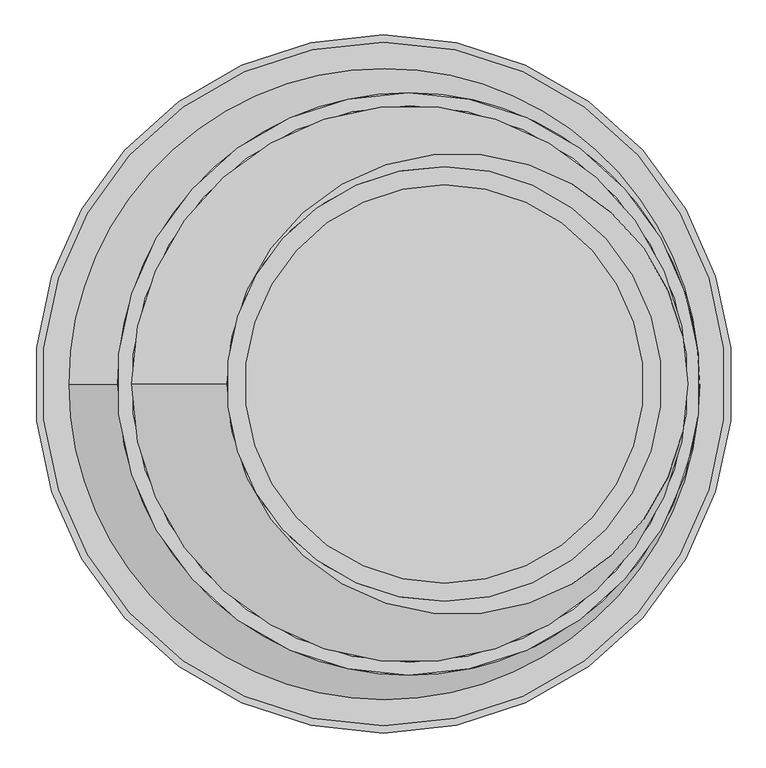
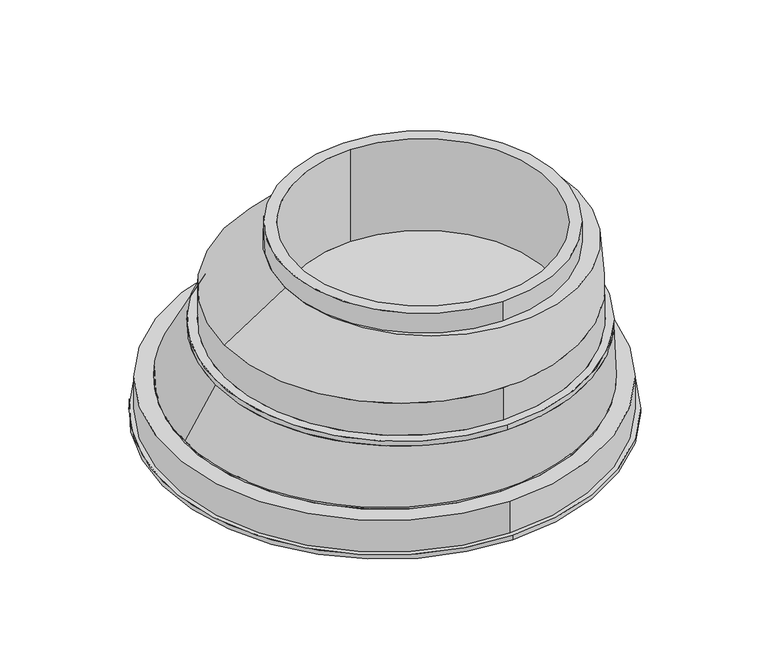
"""IFC4 building model written with IfcOpenShell, lengths in millimetres: valve geometry, Pipelife - Studnia PRO - Nasada redukcyjna z ząbkami do teleskopu 1000 : 1000/630 z ząbkami do teleskopu."""

from ifc_helpers import new_model, si_unit, frame, origin, place, context, project, spatial, polyline, circle_curve, source, transform, mapped, element, save
from ifc_brep_helpers import plane_surface, cylinder_surface, revolved_surface, spline_surface, advanced_brep


def valve_4ef3ddab(model_context):
    return source(origin(), model_context, "Body", "AdvancedBrep", [
        advanced_brep(
        [(485.0, 0.0, 420.0), (-250.0, 0.0, 420.0), (96.5, 346.5, 420.0), (96.5, -346.5, 420.0), (485.0, 0.0, 320.0), (41.5, 443.5, 320.0), (-402.0, 0.0, 320.0), (41.5, -443.5, 320.0), (96.5, 317.5, 228.0), (96.5, -317.5, 228.0), (96.5, 317.5, 472.0), (96.5, -317.5, 472.0), (0.0, 556.5, 11.0), (0.0, -556.5, 11.0), (0.0, -545.0, 11.0), (0.0, 545.0, 11.0), (0.0, 556.5, 0.0), (0.0, -556.5, 0.0), (0.0, 535.0, 0.0), (0.0, -535.0, 0.0), (0.0, 545.0, 95.0), (0.0, -545.0, 95.0), (1.0, -503.0, 95.0), (1.0, 503.0, 95.0), (0.0, 535.0, 90.0), (0.0, -535.0, 90.0), (96.5, 346.5, 472.0), (96.5, -346.5, 472.0), (1.0, 503.0, 100.0), (1.0, -503.0, 100.0), (-502.0, 0.0, 100.0), (504.0, 0.0, 100.0), (-425.0, 0.0, 222.0), (39.5, 464.5, 222.0), (504.0, 0.0, 222.0), (39.5, -464.5, 222.0), (41.5, 443.5, 235.0), (41.5, -443.5, 235.0), (39.5, 464.5, 235.0), (39.5, -464.5, 235.0)],
        [
            (0, 1, circle_curve(frame((117.5, 0.0, 420.0), z_axis=(0.0, 0.0, 1.0), x_axis=(-1.0, 0.0, 0.0)), 367.5)),
            (1, 2, circle_curve(frame((96.5, 0.0, 420.0), z_axis=(0.0, 0.0, -1.0), x_axis=(0.0, -1.0, 0.0)), 346.5)),
            (2, 3, circle_curve(frame((96.5, 0.0, 420.0), z_axis=(0.0, 0.0, -1.0), x_axis=(0.0, -1.0, 0.0)), 346.5)),
            (3, 1, circle_curve(frame((96.5, 0.0, 420.0), z_axis=(0.0, 0.0, -1.0), x_axis=(0.0, -1.0, 0.0)), 346.5)),
            (1, 0, circle_curve(frame((117.5, 0.0, 420.0), z_axis=(0.0, 0.0, 1.0), x_axis=(-1.0, 0.0, 0.0)), 367.5)),
            (0, 4),
            (4, 5, circle_curve(frame((41.5, 0.0, 320.0), z_axis=(0.0, 0.0, 1.0), x_axis=(0.0, -1.0, 0.0)), 443.5)),
            (5, 6, circle_curve(frame((41.5, 0.0, 320.0), z_axis=(0.0, 0.0, 1.0), x_axis=(0.0, -1.0, 0.0)), 443.5)),
            (6, 1),
            (6, 7, circle_curve(frame((41.5, 0.0, 320.0), z_axis=(0.0, 0.0, 1.0), x_axis=(0.0, -1.0, 0.0)), 443.5)),
            (7, 4, circle_curve(frame((41.5, 0.0, 320.0), z_axis=(0.0, 0.0, 1.0), x_axis=(0.0, -1.0, 0.0)), 443.5)),
            (8, 9, circle_curve(frame((96.5, 0.0, 228.0), z_axis=(0.0, 0.0, 1.0), x_axis=(0.0, -1.0, 0.0)), 317.5)),
            (9, 8, circle_curve(frame((96.5, 0.0, 228.0), z_axis=(0.0, 0.0, 1.0), x_axis=(0.0, -1.0, 0.0)), 317.5)),
            (8, 10),
            (10, 11, circle_curve(frame((96.5, 0.0, 472.0), z_axis=(0.0, 0.0, 1.0), x_axis=(0.0, -1.0, 0.0)), 317.5)),
            (11, 9),
            (11, 10, circle_curve(frame((96.5, 0.0, 472.0), z_axis=(0.0, 0.0, 1.0), x_axis=(0.0, -1.0, 0.0)), 317.5)),
            (12, 13, circle_curve(frame((0.0, 0.0, 11.0), z_axis=(0.0, 0.0, 1.0), x_axis=(0.0, -1.0, 0.0)), 556.5)),
            (13, 12, circle_curve(frame((0.0, 0.0, 11.0), z_axis=(0.0, 0.0, 1.0), x_axis=(0.0, -1.0, 0.0)), 556.5)),
            (14, 15, circle_curve(frame((0.0, 0.0, 11.0), z_axis=(0.0, 0.0, -1.0), x_axis=(0.0, -1.0, 0.0)), 545.0)),
            (15, 14, circle_curve(frame((0.0, 0.0, 11.0), z_axis=(0.0, 0.0, -1.0), x_axis=(0.0, -1.0, 0.0)), 545.0)),
            (16, 17, circle_curve(frame((0.0, 0.0, 0.0), z_axis=(0.0, 0.0, -1.0), x_axis=(0.0, -1.0, 0.0)), 556.5)),
            (17, 16, circle_curve(frame((0.0, 0.0, 0.0), z_axis=(0.0, 0.0, -1.0), x_axis=(0.0, -1.0, 0.0)), 556.5)),
            (18, 19, circle_curve(frame((0.0, 0.0, 0.0), z_axis=(0.0, 0.0, 1.0), x_axis=(0.0, -1.0, 0.0)), 535.0)),
            (19, 18, circle_curve(frame((0.0, 0.0, 0.0), z_axis=(0.0, 0.0, 1.0), x_axis=(0.0, -1.0, 0.0)), 535.0)),
            (12, 16),
            (17, 13),
            (20, 21, circle_curve(frame((0.0, 0.0, 95.0), z_axis=(0.0, 0.0, 1.0), x_axis=(0.0, -1.0, 0.0)), 545.0)),
            (21, 20, circle_curve(frame((0.0, 0.0, 95.0), z_axis=(0.0, 0.0, 1.0), x_axis=(0.0, -1.0, 0.0)), 545.0)),
            (22, 23, circle_curve(frame((1.0, 0.0, 95.0), z_axis=(0.0, 0.0, -1.0), x_axis=(0.0, -1.0, 0.0)), 503.0)),
            (23, 22, circle_curve(frame((1.0, 0.0, 95.0), z_axis=(0.0, 0.0, -1.0), x_axis=(0.0, -1.0, 0.0)), 503.0)),
            (20, 15),
            (14, 21),
            (24, 25, circle_curve(frame((0.0, 0.0, 90.0), z_axis=(0.0, 0.0, -1.0), x_axis=(0.0, -1.0, 0.0)), 535.0)),
            (25, 24, circle_curve(frame((0.0, 0.0, 90.0), z_axis=(0.0, 0.0, -1.0), x_axis=(0.0, -1.0, 0.0)), 535.0)),
            (25, 19),
            (18, 24),
            (26, 27, circle_curve(frame((96.5, 0.0, 472.0), z_axis=(0.0, 0.0, 1.0), x_axis=(0.0, -1.0, 0.0)), 346.5)),
            (27, 26, circle_curve(frame((96.5, 0.0, 472.0), z_axis=(0.0, 0.0, 1.0), x_axis=(0.0, -1.0, 0.0)), 346.5)),
            (26, 2),
            (3, 27),
            (28, 23),
            (22, 29),
            (29, 30, circle_curve(frame((1.0, 0.0, 100.0), z_axis=(0.0, 0.0, -1.0), x_axis=(0.0, -1.0, 0.0)), 503.0)),
            (30, 28, circle_curve(frame((1.0, 0.0, 100.0), z_axis=(0.0, 0.0, -1.0), x_axis=(0.0, -1.0, 0.0)), 503.0)),
            (28, 31, circle_curve(frame((1.0, 0.0, 100.0), z_axis=(0.0, 0.0, -1.0), x_axis=(0.0, -1.0, 0.0)), 503.0)),
            (31, 29, circle_curve(frame((1.0, 0.0, 100.0), z_axis=(0.0, 0.0, -1.0), x_axis=(0.0, -1.0, 0.0)), 503.0)),
            (30, 32),
            (32, 33, circle_curve(frame((39.5, 0.0, 222.0), z_axis=(0.0, 0.0, -1.0), x_axis=(0.0, -1.0, 0.0)), 464.5)),
            (33, 34, circle_curve(frame((39.5, 0.0, 222.0), z_axis=(0.0, 0.0, -1.0), x_axis=(0.0, -1.0, 0.0)), 464.5)),
            (34, 31),
            (34, 35, circle_curve(frame((39.5, 0.0, 222.0), z_axis=(0.0, 0.0, -1.0), x_axis=(0.0, -1.0, 0.0)), 464.5)),
            (35, 32, circle_curve(frame((39.5, 0.0, 222.0), z_axis=(0.0, 0.0, -1.0), x_axis=(0.0, -1.0, 0.0)), 464.5)),
            (5, 36),
            (36, 37, circle_curve(frame((41.5, 0.0, 235.0), z_axis=(0.0, 0.0, 1.0), x_axis=(0.0, -1.0, 0.0)), 443.5)),
            (37, 7),
            (37, 36, circle_curve(frame((41.5, 0.0, 235.0), z_axis=(0.0, 0.0, 1.0), x_axis=(0.0, -1.0, 0.0)), 443.5)),
            (38, 39, circle_curve(frame((39.5, 0.0, 235.0), z_axis=(0.0, 0.0, 1.0), x_axis=(0.0, -1.0, 0.0)), 464.5)),
            (39, 38, circle_curve(frame((39.5, 0.0, 235.0), z_axis=(0.0, 0.0, 1.0), x_axis=(0.0, -1.0, 0.0)), 464.5)),
            (38, 33),
            (35, 39),
        ],
        [
            plane_surface(frame((117.5, 0.0, 420.0), z_axis=(0.0, 0.0, 1.0), x_axis=(0.0, 1.0, 0.0))),
            spline_surface(2, 1, [[(485.0, 0.0, 320.0), (485.0, 0.0, 420.0)], [(485.0, 443.5, 320.0), (485.0, 367.5, 420.0)], [(41.5, 443.5, 320.0), (117.5, 367.5, 420.0)], [(-402.0, 443.5, 320.0), (-250.0, 367.5, 420.0)], [(-402.0, 0.0, 320.0), (-250.0, 0.0, 420.0)]], [3, 2, 3], [2, 2], [0.0, 1.0, 2.0], [0.0, 1.0], weights=[[1.0, 1.0], [0.7071067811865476, 0.7071067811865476], [1.0, 1.0], [0.7071067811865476, 0.7071067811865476], [1.0, 1.0]]),
            spline_surface(2, 1, [[(-402.0, 0.0, 320.0), (-250.0, 0.0, 420.0)], [(-402.0, -443.5, 320.0), (-250.0, -367.5, 420.0)], [(41.5, -443.5, 320.0), (117.5, -367.5, 420.0)], [(485.0, -443.5, 320.0), (485.0, -367.5, 420.0)], [(485.0, 0.0, 320.0), (485.0, 0.0, 420.0)]], [3, 2, 3], [2, 2], [0.0, 1.0, 2.0], [0.0, 1.0], weights=[[1.0, 1.0], [0.7071067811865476, 0.7071067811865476], [1.0, 1.0], [0.7071067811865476, 0.7071067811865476], [1.0, 1.0]]),
            plane_surface(frame((96.5, 0.0, 228.0), z_axis=(0.0, 0.0, 1.0), x_axis=(0.0, -1.0, 0.0))),
            revolved_surface(polyline([(96.5, -317.5, 472.0), (96.5, -317.5, 228.0)]), (96.5, 0.0, 472.0), (0.0, 0.0, 1.0)),
            plane_surface(frame((0.0, 0.0, 11.0), z_axis=(0.0, 0.0, 1.0), x_axis=(0.0, -1.0, 0.0))),
            plane_surface(frame((0.0, 0.0, 0.0), z_axis=(0.0, 0.0, -1.0), x_axis=(0.0, -1.0, 0.0))),
            cylinder_surface(frame((0.0, 0.0, 11.0), z_axis=(0.0, 0.0, 1.0), x_axis=(0.0, -1.0, 0.0)), 556.5),
            plane_surface(frame((0.0, 0.0, 95.0), z_axis=(0.0, 0.0, 1.0), x_axis=(0.0, -1.0, 0.0))),
            cylinder_surface(frame((0.0, 0.0, 95.0), z_axis=(0.0, 0.0, 1.0), x_axis=(0.0, -1.0, 0.0)), 545.0),
            plane_surface(frame((0.0, 0.0, 90.0), z_axis=(0.0, 0.0, -1.0), x_axis=(0.0, -1.0, 0.0))),
            revolved_surface(polyline([(0.0, -535.0, 90.0), (0.0, -535.0, 0.0)]), (0.0, 0.0, 90.0), (0.0, 0.0, 1.0)),
            plane_surface(frame((96.5, 0.0, 472.0), z_axis=(0.0, 0.0, 1.0), x_axis=(0.0, -1.0, 0.0))),
            cylinder_surface(frame((96.5, 0.0, 472.0), z_axis=(0.0, 0.0, 1.0), x_axis=(0.0, -1.0, 0.0)), 346.5),
            cylinder_surface(frame((1.0, 0.0, 100.0), z_axis=(0.0, 0.0, 1.0), x_axis=(0.0, -1.0, 0.0)), 503.0),
            spline_surface(2, 1, [[(504.0, 0.0, 100.0), (504.0, 0.0, 222.0)], [(504.0, 503.0, 100.0), (504.0, 464.5, 222.0)], [(1.0, 503.0, 100.0), (39.5, 464.5, 222.0)], [(-502.0, 503.0, 100.0), (-425.0, 464.5, 222.0)], [(-502.0, 0.0, 100.0), (-425.0, 0.0, 222.0)]], [3, 2, 3], [2, 2], [0.0, 1.0, 2.0], [0.0, 1.0], weights=[[1.0, 1.0], [0.7071067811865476, 0.7071067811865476], [1.0, 1.0], [0.7071067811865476, 0.7071067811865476], [1.0, 1.0]]),
            spline_surface(2, 1, [[(-502.0, 0.0, 100.0), (-425.0, 0.0, 222.0)], [(-502.0, -503.0, 100.0), (-425.0, -464.5, 222.0)], [(1.0, -503.0, 100.0), (39.5, -464.5, 222.0)], [(504.0, -503.0, 100.0), (504.0, -464.5, 222.0)], [(504.0, 0.0, 100.0), (504.0, 0.0, 222.0)]], [3, 2, 3], [2, 2], [0.0, 1.0, 2.0], [0.0, 1.0], weights=[[1.0, 1.0], [0.7071067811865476, 0.7071067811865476], [1.0, 1.0], [0.7071067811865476, 0.7071067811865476], [1.0, 1.0]]),
            cylinder_surface(frame((41.5, 0.0, 320.0), z_axis=(0.0, 0.0, 1.0), x_axis=(0.0, -1.0, 0.0)), 443.5),
            plane_surface(frame((39.5, 0.0, 235.0), z_axis=(0.0, 0.0, 1.0), x_axis=(0.0, -1.0, 0.0))),
            cylinder_surface(frame((39.5, 0.0, 235.0), z_axis=(0.0, 0.0, 1.0), x_axis=(0.0, -1.0, 0.0)), 464.5),
        ],
        [
            (0, [[1, 2, 3, 4, 5]]),
            (1, [[-1, 6, 7, 8, 9]]),
            (2, [[-5, -9, 10, 11, -6]]),
            (3, [[12, 13]]),
            (4, [[-12, 14, 15, 16]]),
            (4, [[-13, -16, 17, -14]]),
            (5, [[18, 19], [20, 21]]),
            (6, [[22, 23], [24, 25]]),
            (7, [[-18, 26, -23, 27]]),
            (7, [[-19, -27, -22, -26]]),
            (8, [[28, 29], [30, 31]]),
            (9, [[-28, 32, -20, 33]]),
            (9, [[-29, -33, -21, -32]]),
            (10, [[34, 35]]),
            (11, [[-35, 36, -24, 37]]),
            (11, [[-34, -37, -25, -36]]),
            (12, [[38, 39], [-15, -17]]),
            (13, [[-38, 40, -2, -4, 41]]),
            (13, [[-39, -41, -3, -40]]),
            (14, [[42, -30, 43, 44, 45]]),
            (14, [[-42, 46, 47, -43, -31]]),
            (15, [[48, 49, 50, 51, -46, -45]]),
            (16, [[-48, -44, -47, -51, 52, 53]]),
            (17, [[54, 55, 56, -10, -8]]),
            (17, [[-54, -7, -11, -56, 57]]),
            (18, [[58, 59], [-55, -57]]),
            (19, [[-58, 60, -49, -53, 61]]),
            (19, [[-59, -61, -52, -50, -60]]),
        ],
    ),
    ])


if __name__ == "__main__":
    model = new_model("IFC4")
    model_context = context("Model", 3, world=origin())
    ifc_project = project(units=[si_unit("LENGTHUNIT", "METRE", prefix="MILLI")], contexts=[model_context])
    site = spatial("IfcSite", under=ifc_project)
    building = spatial("IfcBuilding", under=site)
    placement = place(None, origin())
    valve_shape = valve_4ef3ddab(model_context)
    element("IfcValve", 1, ObjectType="Pipelife - Studnia PRO - Nasada redukcyjna z ząbkami do teleskopu 1000 : 1000/630 z ząbkami do teleskopu", at=placement, inside=building, context=model_context, shape_type="MappedRepresentation", body=[
        mapped(valve_shape, transform((0.0, 0.0, 0.0), x_axis=(1.0, 0.0, 0.0), y_axis=(0.0, 1.0, 0.0), z_axis=(0.0, 0.0, 1.0))),
    ])
    save(model, "model.ifc")
